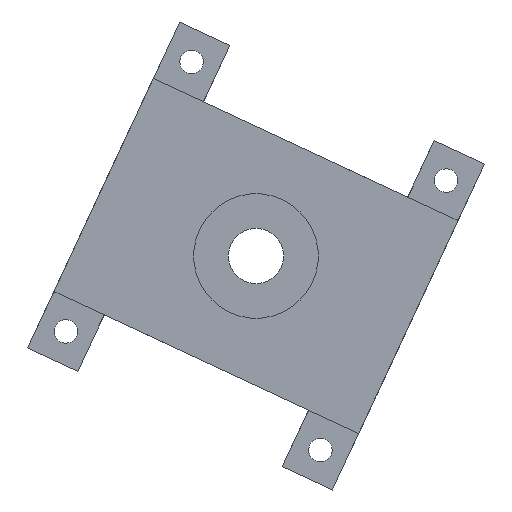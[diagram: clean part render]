
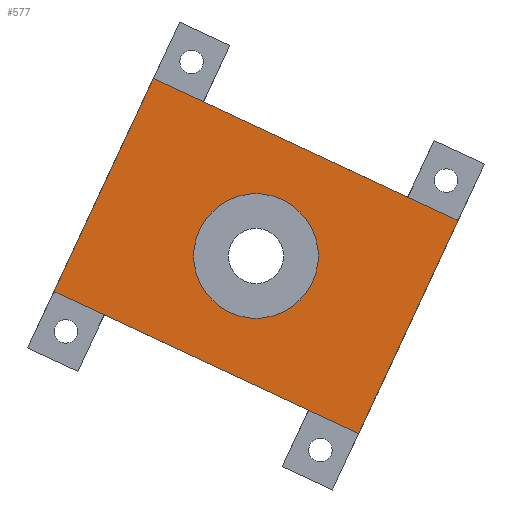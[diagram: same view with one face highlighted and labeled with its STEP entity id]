
A CAD part, front view. The second image highlights one B-rep face of the part: STEP entity #577.
In plain terms, the highlighted planar face has unit normal (0, -1, 0).
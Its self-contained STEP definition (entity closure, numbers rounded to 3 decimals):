
#22 = VERTEX_POINT('',#23);
#23 = CARTESIAN_POINT('',(29.208,-121.5,5.138));
#32 = PLANE('',#33);
#33 = AXIS2_PLACEMENT_3D('',#34,#35,#36);
#34 = CARTESIAN_POINT('',(29.208,-121.5,5.138));
#35 = DIRECTION('',(-0.423,0.,-0.906));
#36 = DIRECTION('',(0.,1.,0.));
#44 = PLANE('',#45);
#45 = AXIS2_PLACEMENT_3D('',#46,#47,#48);
#46 = CARTESIAN_POINT('',(29.208,-121.5,5.138));
#47 = DIRECTION('',(-0.906,0.,0.423));
#48 = DIRECTION('',(0.,1.,0.));
#56 = EDGE_CURVE('',#57,#22,#59,.T.);
#57 = VERTEX_POINT('',#58);
#58 = CARTESIAN_POINT('',(-14.839,-121.5,25.677));
#59 = SURFACE_CURVE('',#60,(#64,#71),.PCURVE_S1.);
#60 = LINE('',#61,#62);
#61 = CARTESIAN_POINT('',(-14.839,-121.5,25.677));
#62 = VECTOR('',#63,1.);
#63 = DIRECTION('',(0.906,0.,-0.423));
#64 = PCURVE('',#32,#65);
#65 = DEFINITIONAL_REPRESENTATION('',(#66),#70);
#66 = LINE('',#67,#68);
#67 = CARTESIAN_POINT('',(0.,-48.6));
#68 = VECTOR('',#69,1.);
#69 = DIRECTION('',(0.,1.));
#70 = ( GEOMETRIC_REPRESENTATION_CONTEXT(2) 
PARAMETRIC_REPRESENTATION_CONTEXT() REPRESENTATION_CONTEXT('2D SPACE',''
  ) );
#71 = PCURVE('',#72,#77);
#72 = PLANE('',#73);
#73 = AXIS2_PLACEMENT_3D('',#74,#75,#76);
#74 = CARTESIAN_POINT('',(29.208,-121.5,5.138));
#75 = DIRECTION('',(0.,1.,0.));
#76 = DIRECTION('',(-0.423,0.,-0.906));
#77 = DEFINITIONAL_REPRESENTATION('',(#78),#82);
#78 = LINE('',#79,#80);
#79 = CARTESIAN_POINT('',(0.,48.6));
#80 = VECTOR('',#81,1.);
#81 = DIRECTION('',(0.,-1.));
#82 = ( GEOMETRIC_REPRESENTATION_CONTEXT(2) 
PARAMETRIC_REPRESENTATION_CONTEXT() REPRESENTATION_CONTEXT('2D SPACE',''
  ) );
#100 = PLANE('',#101);
#101 = AXIS2_PLACEMENT_3D('',#102,#103,#104);
#102 = CARTESIAN_POINT('',(-14.839,-121.5,25.677));
#103 = DIRECTION('',(-0.906,0.,0.423));
#104 = DIRECTION('',(0.,1.,0.));
#253 = EDGE_CURVE('',#22,#254,#256,.T.);
#254 = VERTEX_POINT('',#255);
#255 = CARTESIAN_POINT('',(14.839,-121.5,-25.677));
#256 = SURFACE_CURVE('',#257,(#261,#268),.PCURVE_S1.);
#257 = LINE('',#258,#259);
#258 = CARTESIAN_POINT('',(29.208,-121.5,5.138));
#259 = VECTOR('',#260,1.);
#260 = DIRECTION('',(-0.423,0.,-0.906));
#261 = PCURVE('',#44,#262);
#262 = DEFINITIONAL_REPRESENTATION('',(#263),#267);
#263 = LINE('',#264,#265);
#264 = CARTESIAN_POINT('',(0.,0.));
#265 = VECTOR('',#266,1.);
#266 = DIRECTION('',(0.,1.));
#267 = ( GEOMETRIC_REPRESENTATION_CONTEXT(2) 
PARAMETRIC_REPRESENTATION_CONTEXT() REPRESENTATION_CONTEXT('2D SPACE',''
  ) );
#268 = PCURVE('',#72,#269);
#269 = DEFINITIONAL_REPRESENTATION('',(#270),#274);
#270 = LINE('',#271,#272);
#271 = CARTESIAN_POINT('',(0.,0.));
#272 = VECTOR('',#273,1.);
#273 = DIRECTION('',(1.,0.));
#274 = ( GEOMETRIC_REPRESENTATION_CONTEXT(2) 
PARAMETRIC_REPRESENTATION_CONTEXT() REPRESENTATION_CONTEXT('2D SPACE',''
  ) );
#426 = PLANE('',#427);
#427 = AXIS2_PLACEMENT_3D('',#428,#429,#430);
#428 = CARTESIAN_POINT('',(14.839,-121.5,-25.677));
#429 = DIRECTION('',(-0.423,0.,-0.906));
#430 = DIRECTION('',(0.,1.,0.));
#577 = ADVANCED_FACE('',(#578,#626),#72,.F.);
#578 = FACE_BOUND('',#579,.F.);
#579 = EDGE_LOOP('',(#580,#581,#604,#625));
#580 = ORIENTED_EDGE('',*,*,#253,.T.);
#581 = ORIENTED_EDGE('',*,*,#582,.F.);
#582 = EDGE_CURVE('',#583,#254,#585,.T.);
#583 = VERTEX_POINT('',#584);
#584 = CARTESIAN_POINT('',(-29.208,-121.5,-5.138));
#585 = SURFACE_CURVE('',#586,(#590,#597),.PCURVE_S1.);
#586 = LINE('',#587,#588);
#587 = CARTESIAN_POINT('',(-29.208,-121.5,-5.138));
#588 = VECTOR('',#589,1.);
#589 = DIRECTION('',(0.906,0.,-0.423));
#590 = PCURVE('',#72,#591);
#591 = DEFINITIONAL_REPRESENTATION('',(#592),#596);
#592 = LINE('',#593,#594);
#593 = CARTESIAN_POINT('',(34.,48.6));
#594 = VECTOR('',#595,1.);
#595 = DIRECTION('',(0.,-1.));
#596 = ( GEOMETRIC_REPRESENTATION_CONTEXT(2) 
PARAMETRIC_REPRESENTATION_CONTEXT() REPRESENTATION_CONTEXT('2D SPACE',''
  ) );
#597 = PCURVE('',#426,#598);
#598 = DEFINITIONAL_REPRESENTATION('',(#599),#603);
#599 = LINE('',#600,#601);
#600 = CARTESIAN_POINT('',(0.,-48.6));
#601 = VECTOR('',#602,1.);
#602 = DIRECTION('',(0.,1.));
#603 = ( GEOMETRIC_REPRESENTATION_CONTEXT(2) 
PARAMETRIC_REPRESENTATION_CONTEXT() REPRESENTATION_CONTEXT('2D SPACE',''
  ) );
#604 = ORIENTED_EDGE('',*,*,#605,.F.);
#605 = EDGE_CURVE('',#57,#583,#606,.T.);
#606 = SURFACE_CURVE('',#607,(#611,#618),.PCURVE_S1.);
#607 = LINE('',#608,#609);
#608 = CARTESIAN_POINT('',(-14.839,-121.5,25.677));
#609 = VECTOR('',#610,1.);
#610 = DIRECTION('',(-0.423,0.,-0.906));
#611 = PCURVE('',#72,#612);
#612 = DEFINITIONAL_REPRESENTATION('',(#613),#617);
#613 = LINE('',#614,#615);
#614 = CARTESIAN_POINT('',(0.,48.6));
#615 = VECTOR('',#616,1.);
#616 = DIRECTION('',(1.,0.));
#617 = ( GEOMETRIC_REPRESENTATION_CONTEXT(2) 
PARAMETRIC_REPRESENTATION_CONTEXT() REPRESENTATION_CONTEXT('2D SPACE',''
  ) );
#618 = PCURVE('',#100,#619);
#619 = DEFINITIONAL_REPRESENTATION('',(#620),#624);
#620 = LINE('',#621,#622);
#621 = CARTESIAN_POINT('',(0.,0.));
#622 = VECTOR('',#623,1.);
#623 = DIRECTION('',(0.,1.));
#624 = ( GEOMETRIC_REPRESENTATION_CONTEXT(2) 
PARAMETRIC_REPRESENTATION_CONTEXT() REPRESENTATION_CONTEXT('2D SPACE',''
  ) );
#625 = ORIENTED_EDGE('',*,*,#56,.T.);
#626 = FACE_BOUND('',#627,.F.);
#627 = EDGE_LOOP('',(#628));
#628 = ORIENTED_EDGE('',*,*,#629,.T.);
#629 = EDGE_CURVE('',#630,#630,#632,.T.);
#630 = VERTEX_POINT('',#631);
#631 = CARTESIAN_POINT('',(-8.157,-121.5,3.804));
#632 = SURFACE_CURVE('',#633,(#638,#649),.PCURVE_S1.);
#633 = CIRCLE('',#634,9.);
#634 = AXIS2_PLACEMENT_3D('',#635,#636,#637);
#635 = CARTESIAN_POINT('',(0.,-121.5,0.));
#636 = DIRECTION('',(-0.,-1.,0.));
#637 = DIRECTION('',(-0.906,0.,0.423));
#638 = PCURVE('',#72,#639);
#639 = DEFINITIONAL_REPRESENTATION('',(#640),#648);
#640 = ( BOUNDED_CURVE() B_SPLINE_CURVE(2,(#641,#642,#643,#644,#645,#646
,#647),.UNSPECIFIED.,.T.,.F.) B_SPLINE_CURVE_WITH_KNOTS((1,2,2,2,2,1),(
    -2.094,0.,2.094,4.189,6.283,
8.378),.UNSPECIFIED.) CURVE() GEOMETRIC_REPRESENTATION_ITEM() 
RATIONAL_B_SPLINE_CURVE((1.,0.5,1.,0.5,1.,0.5,1.)) REPRESENTATION_ITEM(
  '') );
#641 = CARTESIAN_POINT('',(17.,33.3));
#642 = CARTESIAN_POINT('',(32.588,33.3));
#643 = CARTESIAN_POINT('',(24.794,19.8));
#644 = CARTESIAN_POINT('',(17.,6.3));
#645 = CARTESIAN_POINT('',(9.206,19.8));
#646 = CARTESIAN_POINT('',(1.412,33.3));
#647 = CARTESIAN_POINT('',(17.,33.3));
#648 = ( GEOMETRIC_REPRESENTATION_CONTEXT(2) 
PARAMETRIC_REPRESENTATION_CONTEXT() REPRESENTATION_CONTEXT('2D SPACE',''
  ) );
#649 = PCURVE('',#650,#655);
#650 = CYLINDRICAL_SURFACE('',#651,9.);
#651 = AXIS2_PLACEMENT_3D('',#652,#653,#654);
#652 = CARTESIAN_POINT('',(0.,-122.5,0.));
#653 = DIRECTION('',(0.,-1.,0.));
#654 = DIRECTION('',(-0.906,0.,0.423));
#655 = DEFINITIONAL_REPRESENTATION('',(#656),#660);
#656 = LINE('',#657,#658);
#657 = CARTESIAN_POINT('',(-6.283,-1.));
#658 = VECTOR('',#659,1.);
#659 = DIRECTION('',(1.,-0.));
#660 = ( GEOMETRIC_REPRESENTATION_CONTEXT(2) 
PARAMETRIC_REPRESENTATION_CONTEXT() REPRESENTATION_CONTEXT('2D SPACE',''
  ) );
